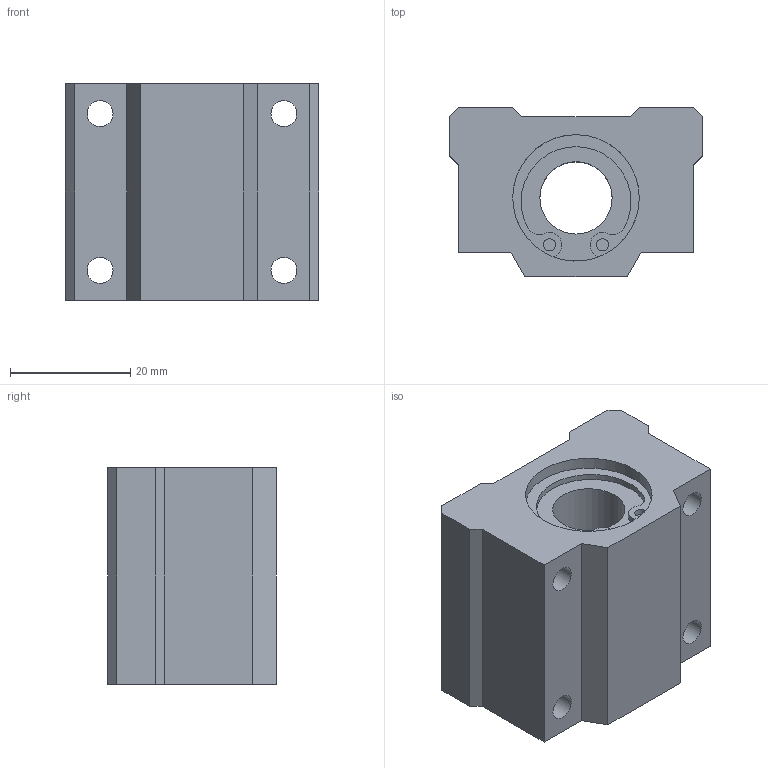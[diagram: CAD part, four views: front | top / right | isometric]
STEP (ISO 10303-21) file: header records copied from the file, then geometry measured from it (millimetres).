
FILE_DESCRIPTION(('STEP AP203'),'1');
FILE_NAME('//192.168.1.1/share/s-4 技術開発/s-4-4_CAD/s-4-4-3_見直し済み/008 修正済み/LC-A/LC-A_TOP/LC-12VAUU.step','2022-05-19T01:38:10',(' '),(' '),'Spatial InterOp 3D',' ',' ');
FILE_SCHEMA(('CONFIG_CONTROL_DESIGN'));
Length unit declared in the file: millimetre
Products named in the file (1): 1
Bounding box: 42 x 28 x 36 mm (x, y, z)
Volume: 29609.9 mm3; surface area: 9358 mm2
Topology: 1 solids, 1 shells, 61 faces, 159 edges, 106 vertices
Faces by surface type: plane 32, cylinder 29
Full cylindrical faces by diameter (mm): 2 x4, 4.3 x8, 12 x1, 21 x2
Entity records: 1824 total; most frequent: DIRECTION 318, CARTESIAN_POINT 300, ORIENTED_EDGE 276, EDGE_CURVE 138, AXIS2_PLACEMENT_3D 118, VERTEX_POINT 100, EDGE_LOOP 92, LINE 82
